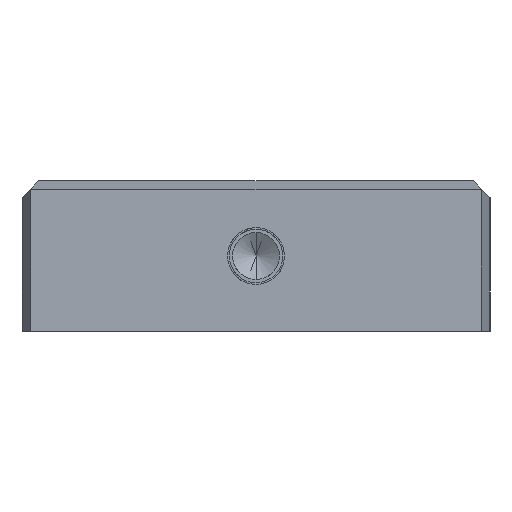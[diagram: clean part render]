
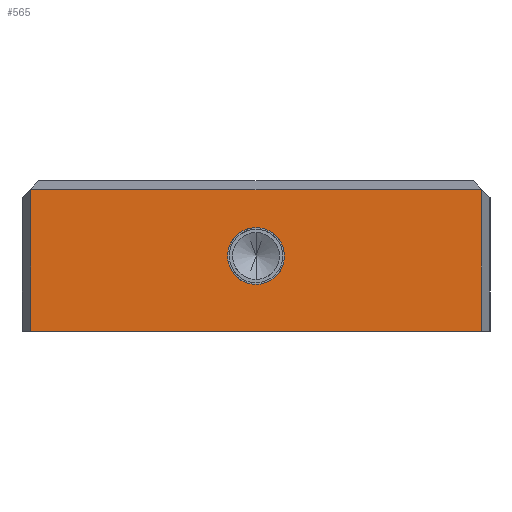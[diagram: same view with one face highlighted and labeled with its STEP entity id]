
A CAD part, front view. The second image highlights one B-rep face of the part: STEP entity #565.
In plain terms, the highlighted planar face has unit normal (0, -1, 0).
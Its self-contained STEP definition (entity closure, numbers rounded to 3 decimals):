
#457=CARTESIAN_POINT('Vertex',(0.,0.,-31.)) ;
#461=CARTESIAN_POINT('Control Point',(8.5,0.,-22.5)) ;
#462=CARTESIAN_POINT('Control Point',(8.5,0.,-25.17)) ;
#463=CARTESIAN_POINT('Control Point',(7.454,0.,-27.843)) ;
#464=CARTESIAN_POINT('Control Point',(5.343,0.,-29.954)) ;
#465=CARTESIAN_POINT('Control Point',(2.67,0.,-31.)) ;
#466=CARTESIAN_POINT('Control Point',(0.,0.,-31.)) ;
#467=CARTESIAN_POINT('Vertex',(8.5,0.,-22.5)) ;
#470=CARTESIAN_POINT('Axis2P3D Location',(0.,0.,-22.5)) ;
#474=CARTESIAN_POINT('Vertex',(0.,0.,-14.)) ;
#496=CARTESIAN_POINT('Axis2P3D Location',(0.,0.,-22.5)) ;
#500=CARTESIAN_POINT('Vertex',(-8.5,0.,-22.5)) ;
#504=CARTESIAN_POINT('Control Point',(0.,0.,-31.)) ;
#505=CARTESIAN_POINT('Control Point',(-2.67,0.,-31.)) ;
#506=CARTESIAN_POINT('Control Point',(-5.343,0.,-29.954)) ;
#507=CARTESIAN_POINT('Control Point',(-7.454,0.,-27.843)) ;
#508=CARTESIAN_POINT('Control Point',(-8.5,0.,-25.17)) ;
#509=CARTESIAN_POINT('Control Point',(-8.5,0.,-22.5)) ;
#520=CARTESIAN_POINT('Axis2P3D Location',(-67.321,0.,-45.)) ;
#525=CARTESIAN_POINT('Line Origine',(67.321,0.,-23.84)) ;
#529=CARTESIAN_POINT('Vertex',(67.321,0.,-45.)) ;
#531=CARTESIAN_POINT('Vertex',(67.321,0.,-2.679)) ;
#534=CARTESIAN_POINT('Line Origine',(0.,0.,-2.679)) ;
#538=CARTESIAN_POINT('Vertex',(-67.321,0.,-2.679)) ;
#541=CARTESIAN_POINT('Line Origine',(-67.321,0.,-23.84)) ;
#545=CARTESIAN_POINT('Vertex',(-67.321,0.,-45.)) ;
#548=CARTESIAN_POINT('Line Origine',(0.,0.,-45.)) ;
#471=DIRECTION('Axis2P3D Direction',(0.,-1.,0.)) ;
#497=DIRECTION('Axis2P3D Direction',(0.,-1.,0.)) ;
#521=DIRECTION('Axis2P3D Direction',(0.,-1.,0.)) ;
#522=DIRECTION('Axis2P3D XDirection',(0.,0.,-1.)) ;
#526=DIRECTION('Vector Direction',(0.,0.,1.)) ;
#535=DIRECTION('Vector Direction',(-1.,0.,0.)) ;
#542=DIRECTION('Vector Direction',(0.,0.,1.)) ;
#549=DIRECTION('Vector Direction',(1.,0.,0.)) ;
#472=AXIS2_PLACEMENT_3D('Circle Axis2P3D',#470,#471,$) ;
#498=AXIS2_PLACEMENT_3D('Circle Axis2P3D',#496,#497,$) ;
#523=AXIS2_PLACEMENT_3D('Plane Axis2P3D',#520,#521,#522) ;
#554=ORIENTED_EDGE('',*,*,#533,.T.) ;
#555=ORIENTED_EDGE('',*,*,#540,.T.) ;
#556=ORIENTED_EDGE('',*,*,#547,.F.) ;
#557=ORIENTED_EDGE('',*,*,#552,.T.) ;
#560=ORIENTED_EDGE('',*,*,#469,.T.) ;
#561=ORIENTED_EDGE('',*,*,#510,.T.) ;
#562=ORIENTED_EDGE('',*,*,#502,.T.) ;
#563=ORIENTED_EDGE('',*,*,#476,.T.) ;
#564=FACE_BOUND('',#559,.T.) ;
#527=VECTOR('Line Direction',#526,1.) ;
#536=VECTOR('Line Direction',#535,1.) ;
#543=VECTOR('Line Direction',#542,1.) ;
#550=VECTOR('Line Direction',#549,1.) ;
#565=ADVANCED_FACE('A927-140X400X45',(#558,#564),#524,.T.) ;
#460=B_SPLINE_CURVE_WITH_KNOTS('',5,(#461,#462,#463,#464,#465,#466),.UNSPECIFIED.,.F.,.U.,(6,6),(-6.676,6.676),.UNSPECIFIED.) ;
#503=B_SPLINE_CURVE_WITH_KNOTS('',5,(#504,#505,#506,#507,#508,#509),.UNSPECIFIED.,.F.,.U.,(6,6),(-6.676,6.676),.UNSPECIFIED.) ;
#473=CIRCLE('generated circle',#472,8.5) ;
#499=CIRCLE('generated circle',#498,8.5) ;
#469=EDGE_CURVE('',#468,#458,#460,.T.) ;
#476=EDGE_CURVE('',#475,#468,#473,.F.) ;
#502=EDGE_CURVE('',#501,#475,#499,.F.) ;
#510=EDGE_CURVE('',#458,#501,#503,.T.) ;
#533=EDGE_CURVE('',#530,#532,#528,.T.) ;
#540=EDGE_CURVE('',#532,#539,#537,.T.) ;
#547=EDGE_CURVE('',#546,#539,#544,.T.) ;
#552=EDGE_CURVE('',#546,#530,#551,.T.) ;
#553=EDGE_LOOP('',(#554,#555,#556,#557)) ;
#559=EDGE_LOOP('',(#560,#561,#562,#563)) ;
#558=FACE_OUTER_BOUND('',#553,.T.) ;
#528=LINE('Line',#525,#527) ;
#537=LINE('Line',#534,#536) ;
#544=LINE('Line',#541,#543) ;
#551=LINE('Line',#548,#550) ;
#524=PLANE('Plane',#523) ;
#458=VERTEX_POINT('',#457) ;
#468=VERTEX_POINT('',#467) ;
#475=VERTEX_POINT('',#474) ;
#501=VERTEX_POINT('',#500) ;
#530=VERTEX_POINT('',#529) ;
#532=VERTEX_POINT('',#531) ;
#539=VERTEX_POINT('',#538) ;
#546=VERTEX_POINT('',#545) ;
